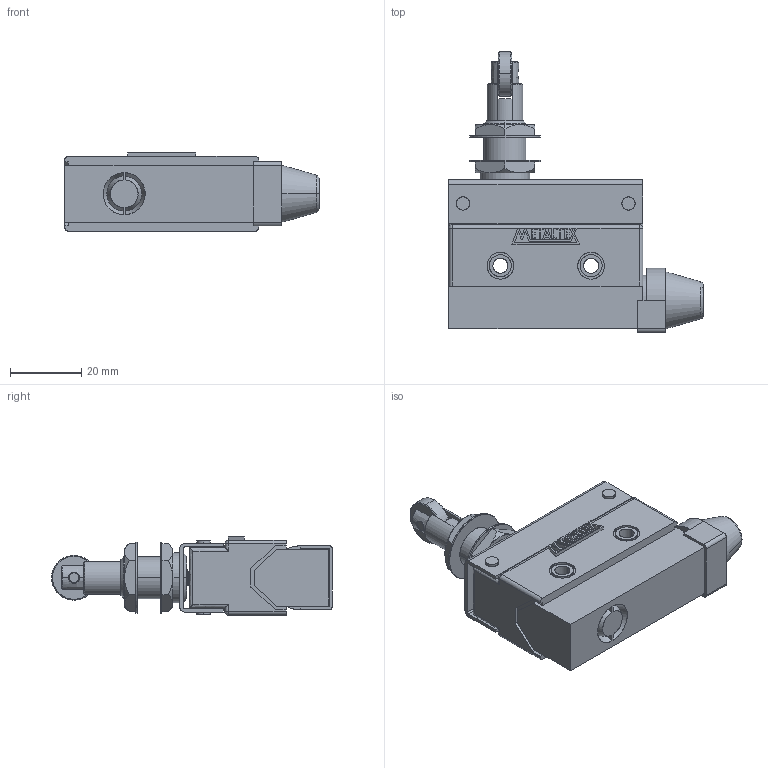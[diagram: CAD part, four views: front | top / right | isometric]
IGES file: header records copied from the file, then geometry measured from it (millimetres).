
Start section: SolidWorks IGES file using analytic representation for surfaces
Global section: file name: D:\X - Arquivos\PROEX\Empresas\P11 - METALTEX\01 - Produtos\IGES\4ª remessa\6ª etapa\FM7312.IGS; native system: SolidWorks 2012; preprocessor: SolidWorks 2012; author: Usuario; date: 180620.131928; units: millimetre
Bounding box: 71.5 x 78.9 x 22 mm (x, y, z)
Surface area: 18865.1 mm2 (no closed solid volume)
Topology: 0 solids, 0 shells, 425 faces, 5665 edges, 5651 vertices
Faces by surface type: bspline 257, revolution 168
